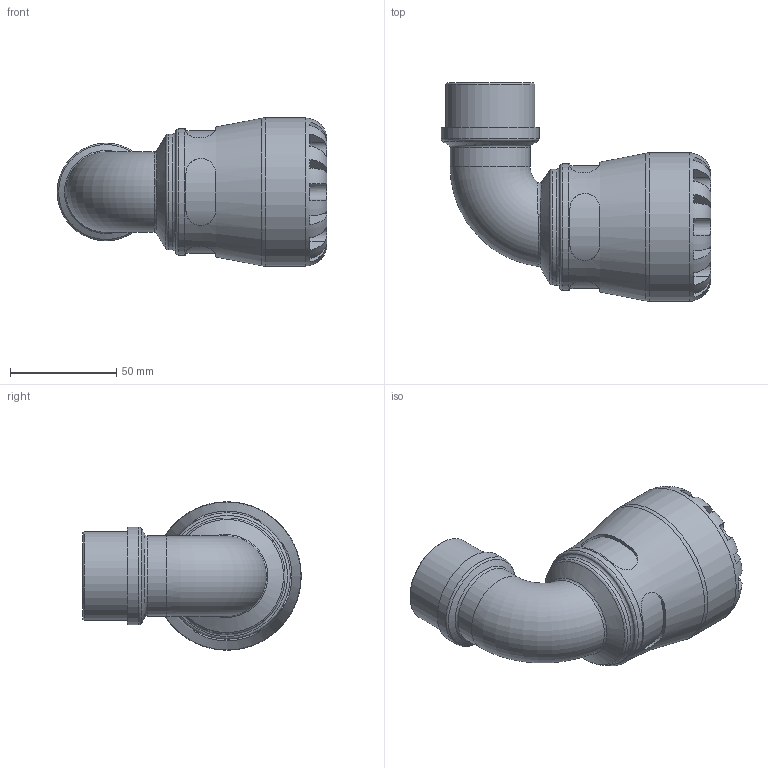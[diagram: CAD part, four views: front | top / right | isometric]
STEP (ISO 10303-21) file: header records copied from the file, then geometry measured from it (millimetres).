
FILE_DESCRIPTION(/* description */ ('PLASSON 90° ELBOW WITH MALE INTEGRAL BRASS 40X1.1/4" SERIES 1'),/* implementation_level */ '2;1');
FILE_NAME(/* name */ 'C:\Dropbox\KIMPROJECTS-Inventor\99-16-3568-Processing\S1\1077\107700040013_197700040013.ipt.stp',/* time_stamp */ '2018-05-13T11:03:38+03:00',/* author */ ('KIM'),/* organization */ (''),/* preprocessor_version */ 'ST-DEVELOPER v15.6',/* originating_system */ 'Autodesk Inventor 2015',/* authorisation */ '');
FILE_SCHEMA (('AUTOMOTIVE_DESIGN { 1 0 10303 214 3 1 1 }'));
Length unit declared in the file: millimetre
Products named in the file (1): 107700040013_197700040013
Bounding box: 127.05 x 103 x 70 mm (x, y, z)
Volume: 199292.1 mm3; surface area: 49699.4 mm2
Topology: 1 solids, 1 shells, 112 faces, 275 edges, 170 vertices
Faces by surface type: plane 60, cylinder 37, torus 9, cone 3, bspline 3
Full cylindrical faces by diameter (mm): 29.337 x2, 37.719 x1, 40 x1, 41.91 x1, 46.101 x1, 54.6 x1, 59.5 x1, 70 x1
Entity records: 4391 total; most frequent: CARTESIAN_POINT 1801, DIRECTION 495, ORIENTED_EDGE 492, EDGE_CURVE 246, AXIS2_PLACEMENT_3D 207, VERTEX_POINT 163, EDGE_LOOP 141, STYLED_ITEM 113
